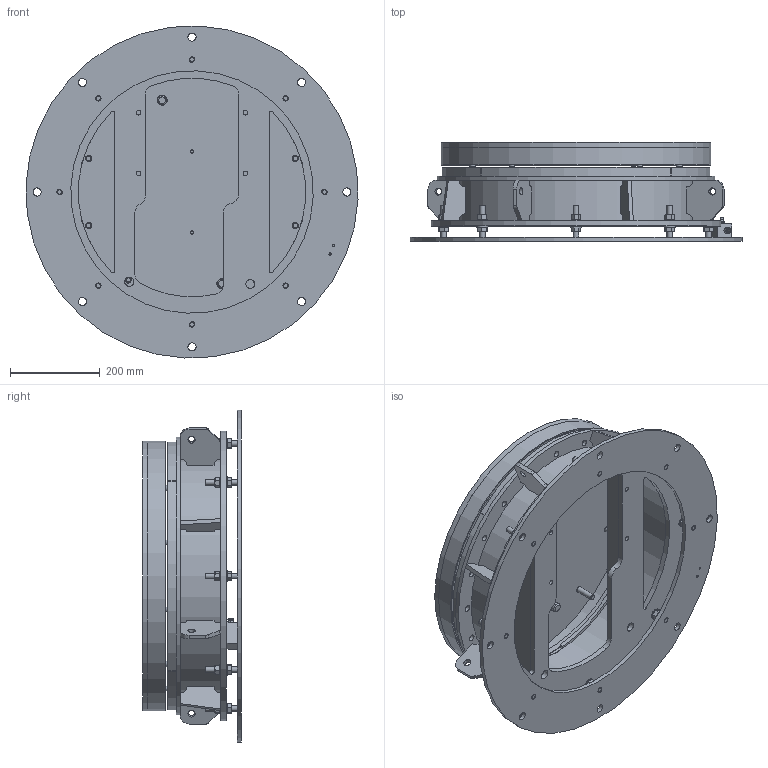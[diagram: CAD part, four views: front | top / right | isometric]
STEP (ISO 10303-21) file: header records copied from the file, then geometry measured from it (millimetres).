
FILE_DESCRIPTION(/* description */ (''),/* implementation_level */ '2;1');
FILE_NAME(/* name */ '',/* time_stamp */ '2026-06-18T12:52:47+09:00',/* author */ ('k-hotta'),/* organization */ (''),/* preprocessor_version */ 'ST-DEVELOPER v20.1',/* originating_system */ 'Autodesk Inventor 2026',/* authorisation */ '');
FILE_SCHEMA (('AUTOMOTIVE_DESIGN { 1 0 10303 214 3 1 1 }'));
Length unit declared in the file: millimetre
Products named in the file (22): P150-0003_総組立図(S-06)(穴無し)
(外観); P151-0013; P151-0013-001; P151-0013-002; P151-0014; P151-0015; P152-0020; R0BG1280F2; P151-0004; P152-0002; P152-0003; PM1181; PH0402; PM1183; PM1187; RPWG120; RSWG120; H0NG1212; PA1202; HCBG0630H; HFSG1255F; CFSG0820F2
Assembly tree (70 placements, depth 3):
  P150-0003_総組立図(S-06)(穴無し)
(外観)
    P151-0013
      P151-0013-001
      P151-0013-002
    P151-0014
    P151-0015
      P152-0020
      R0BG1280F2  x8
    P151-0004
      P152-0002  x3
      P152-0003
    PM1181
    PH0402  x2
    PM1183
    PM1187
    RPWG120  x8
    H0NG1212  x16
    RSWG120  x8
    PA1202  x2
    HCBG0630H  x2
    HFSG1255F  x8
    CFSG0820F2  x2
Bounding box: 739.3 x 220 x 739.3 mm (x, y, z)
Volume: 12230716.8 mm3; surface area: 2772449.5 mm2
Topology: 79 solids, 79 shells, 1064 faces, 2430 edges, 1546 vertices
Faces by surface type: plane 477, cylinder 285, cone 279, torus 22, sphere 1
Full cylindrical faces by diameter (mm): 4.5 x1, 4.917 x2, 6 x2, 6.2 x2, 6.6 x5, 6.647 x2, 8 x2, 8.1 x2, 8.2 x1, 8.201 x1, 9.5 x4, 10 x2, 10.106 x48, 11 x2, 11.8 x2, 12 x16, 13 x8, 14 x36, 16 x6, 16.5 x2, 18 x8, 20 x6, 20.5 x2, 22 x2, 23.12 x8, 24 x8, 520 x1, 538 x1, 540 x1, 594 x1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
Entity records: 16761 total; most frequent: CARTESIAN_POINT 3426, DIRECTION 2777, ORIENTED_EDGE 2392, EDGE_CURVE 1196, AXIS2_PLACEMENT_3D 1121, VERTEX_POINT 776, EDGE_LOOP 704, LINE 535
